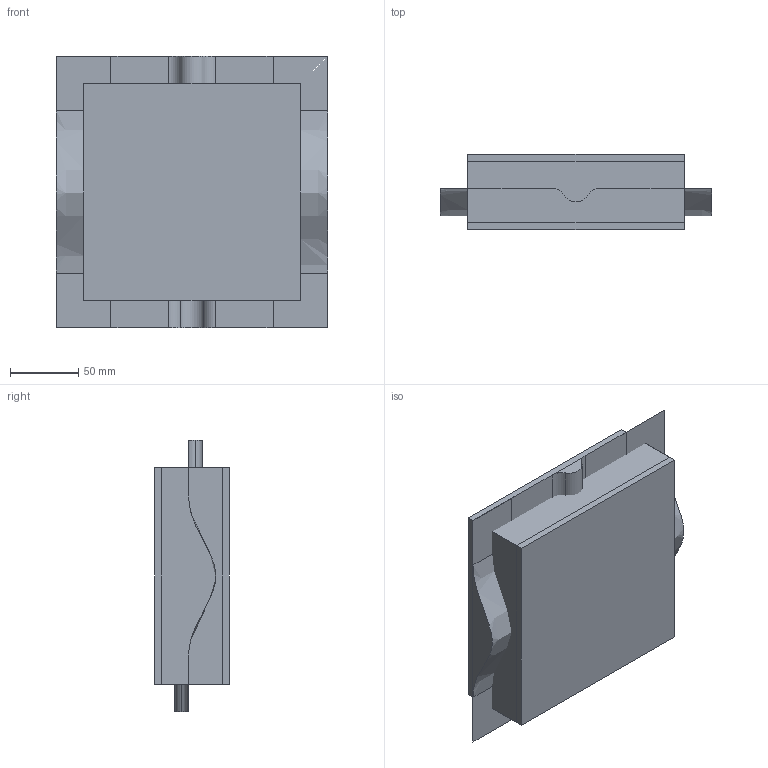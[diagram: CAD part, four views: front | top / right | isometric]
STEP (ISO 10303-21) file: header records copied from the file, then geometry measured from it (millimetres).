
FILE_DESCRIPTION(('CATIA V5 STEP Exchange'),'2;1');
FILE_NAME('C:\_Andres\UNIVERSIDAD\IQS\ASIGNATURAS\DAO\EXF\EXF-16172c\2inicio\Marra-Lopez_Llovet_Ej02_v19.stp','2017-03-05T15:45:28+00:00',('none'),('none'),'CATIA Version 5-6 Release 2014 SP1 HF18','CATIA V5 STEP AP203','none');
FILE_SCHEMA(('CONFIG_CONTROL_DESIGN'));
Length unit declared in the file: millimetre
Products named in the file (1): Marra-Lopez_Llovet_Ej02_v19
Bounding box: 199 x 55 x 199 mm (x, y, z)
Surface area: 255156.4 mm2
Topology: 3 solids, 10 shells, 72 faces, 205 edges, 150 vertices
Faces by surface type: bspline 32, plane 32, cylinder 6, extrusion 2
Entity records: 6068 total; most frequent: CARTESIAN_POINT 4751, ORIENTED_EDGE 288, DIRECTION 151, EDGE_CURVE 132, VERTEX_POINT 84, VECTOR 77, LINE 75, ADVANCED_FACE 72
